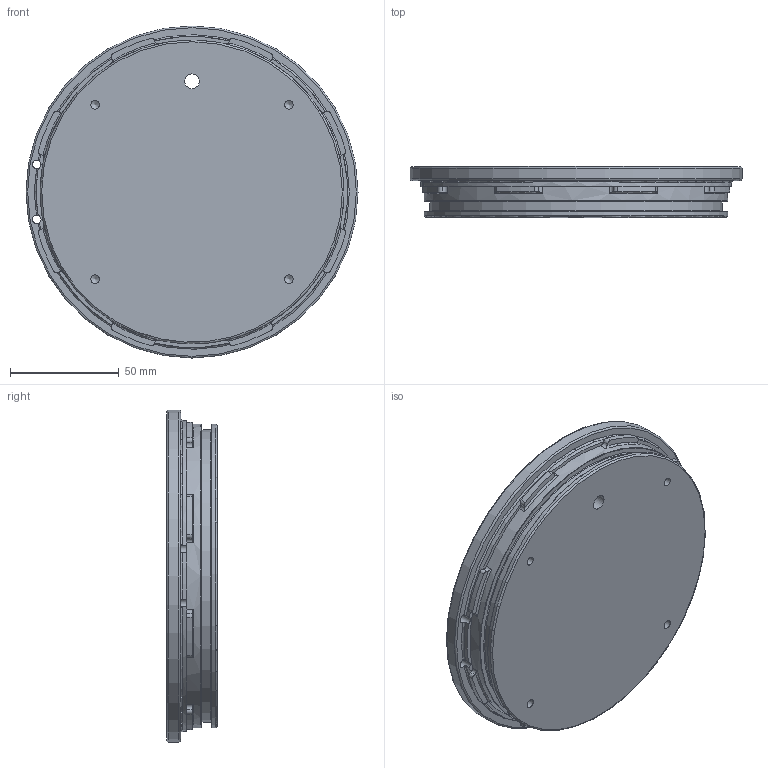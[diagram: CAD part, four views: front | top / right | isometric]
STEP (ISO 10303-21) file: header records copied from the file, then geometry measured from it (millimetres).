
FILE_DESCRIPTION(/* description */ ('ENDCAP, BUOYANCY ENGINE HOUSING, HYD PORT'),/* implementation_level */ '2;1');
FILE_NAME(/* name */ 'D:\MSL_Vault\Project_Library\Barreleye\Sea Fligt Robotics\Buoyancy Engine\STEP\BD-PRT-0298-0001_RevC.stp',/* time_stamp */ '2020-10-12T08:07:55-04:00',/* author */ ('Jeremy Paulus'),/* organization */ (''),/* preprocessor_version */ 'ST-DEVELOPER v15.2',/* originating_system */ 'Autodesk Inventor 2014',/* authorisation */ '');
FILE_SCHEMA (('AUTOMOTIVE_DESIGN { 1 0 10303 214 3 1 1 }'));
Length unit declared in the file: inch
Products named in the file (1): BD-PRT-0298-0001
Bounding box: 152.4 x 23.18 x 152.4 mm (x, y, z)
Volume: 297483 mm3; surface area: 52497.7 mm2
Topology: 1 solids, 1 shells, 166 faces, 437 edges, 276 vertices
Faces by surface type: cylinder 80, torus 45, plane 37, cone 4
Full cylindrical faces by diameter (mm): 3.962 x6, 6.782 x1, 19.05 x1, 134.061 x1, 139.497 x2, 152.4 x1
Entity records: 5419 total; most frequent: CARTESIAN_POINT 1071, DIRECTION 986, ORIENTED_EDGE 812, AXIS2_PLACEMENT_3D 437, EDGE_CURVE 406, CIRCLE 270, VERTEX_POINT 268, EDGE_LOOP 198
